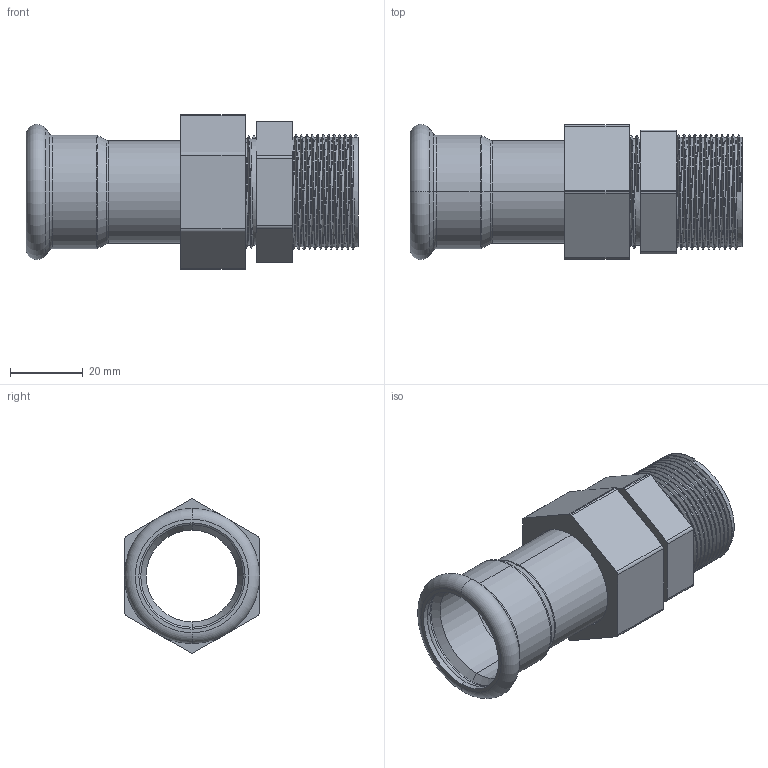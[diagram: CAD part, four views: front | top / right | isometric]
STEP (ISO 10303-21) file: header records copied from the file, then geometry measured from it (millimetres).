
FILE_DESCRIPTION (( 'STEP AP214' ), '1' );
FILE_NAME ('M28250K.STEP', '2025-08-17T07:05:15', ( '' ), ( '' ), 'SwSTEP 2.0', 'SolidWorks 2020', '' );
FILE_SCHEMA (( 'AUTOMOTIVE_DESIGN' ));
Length unit declared in the file: millimetre
Products named in the file (1): M28250K
Bounding box: 91.3 x 37.18 x 42.41 mm (x, y, z)
Volume: 26828.2 mm3; surface area: 26371.2 mm2
Topology: 3 solids, 3 shells, 149 faces, 374 edges, 236 vertices
Faces by surface type: cylinder 88, plane 28, torus 14, cone 10, bspline 9
Entity records: 10319 total; most frequent: CARTESIAN_POINT 5356, ORIENTED_EDGE 748, DIRECTION 639, EDGE_CURVE 374, AXIS2_PLACEMENT_3D 246, VERTEX_POINT 236, EDGE_LOOP 160, UNCERTAINTY_MEASURE_WITH_UNIT 154
